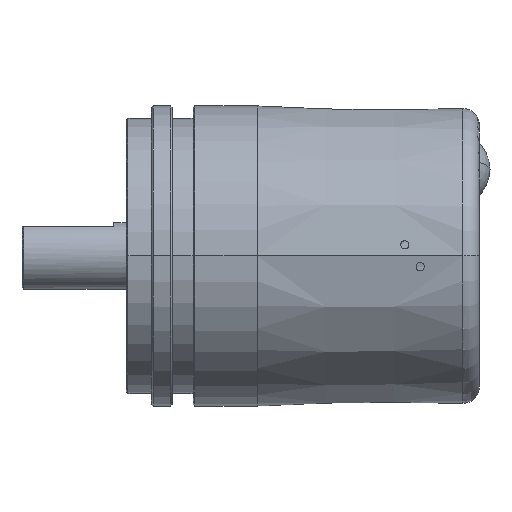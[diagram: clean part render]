
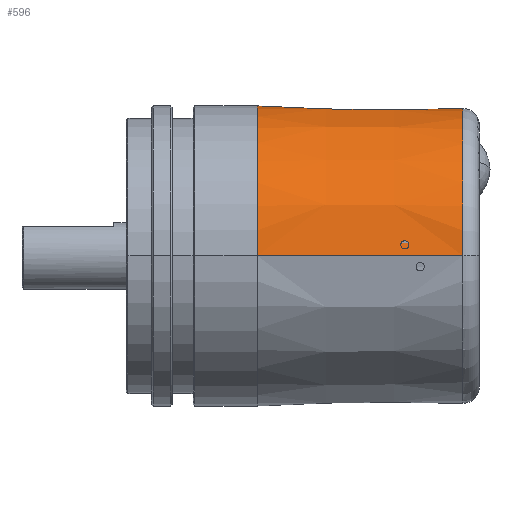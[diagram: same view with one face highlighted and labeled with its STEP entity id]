
A CAD part, top view. The second image highlights one B-rep face of the part: STEP entity #596.
In plain terms, the highlighted conical face has half-angle 0.75 degrees and reference radius 18 mm.
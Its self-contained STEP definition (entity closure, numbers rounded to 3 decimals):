
#129 = VERTEX_POINT ( 'NONE', #21431 ) ;
#505 = VERTEX_POINT ( 'NONE', #2019 ) ;
#507 = EDGE_CURVE ( 'NONE', #505, #514, #2053, .T. ) ;
#514 = VERTEX_POINT ( 'NONE', #2030 ) ;
#593 = EDGE_CURVE ( 'NONE', #594, #600, #2279, .T. ) ;
#594 = VERTEX_POINT ( 'NONE', #2274 ) ;
#596 = ADVANCED_FACE ( 'NONE', ( #2270 ), #2307, .T. ) ;
#598 = ORIENTED_EDGE ( 'NONE', *, *, #599, .T. ) ;
#599 = EDGE_CURVE ( 'NONE', #594, #505, #2302, .T. ) ;
#600 = VERTEX_POINT ( 'NONE', #2298 ) ;
#604 = EDGE_LOOP ( 'NONE', ( #605, #598, #633, #634, #625, #626, #621, #631, #640, #651, #652 ) ) ;
#605 = ORIENTED_EDGE ( 'NONE', *, *, #593, .F. ) ;
#621 = ORIENTED_EDGE ( 'NONE', *, *, #635, .F. ) ;
#625 = ORIENTED_EDGE ( 'NONE', *, *, #630, .T. ) ;
#626 = ORIENTED_EDGE ( 'NONE', *, *, #637, .T. ) ;
#627 = VERTEX_POINT ( 'NONE', #2376 ) ;
#629 = VERTEX_POINT ( 'NONE', #2370 ) ;
#630 = EDGE_CURVE ( 'NONE', #629, #627, #2369, .T. ) ;
#631 = ORIENTED_EDGE ( 'NONE', *, *, #19432, .T. ) ;
#632 = EDGE_CURVE ( 'NONE', #514, #629, #2412, .T. ) ;
#633 = ORIENTED_EDGE ( 'NONE', *, *, #507, .T. ) ;
#634 = ORIENTED_EDGE ( 'NONE', *, *, #632, .T. ) ;
#635 = EDGE_CURVE ( 'NONE', #129, #641, #2406, .T. ) ;
#637 = EDGE_CURVE ( 'NONE', #627, #641, #2436, .T. ) ;
#640 = ORIENTED_EDGE ( 'NONE', *, *, #646, .T. ) ;
#641 = VERTEX_POINT ( 'NONE', #2421 ) ;
#642 = VERTEX_POINT ( 'NONE', #2420 ) ;
#646 = EDGE_CURVE ( 'NONE', #19481, #642, #2466, .T. ) ;
#650 = EDGE_CURVE ( 'NONE', #657, #600, #2493, .T. ) ;
#651 = ORIENTED_EDGE ( 'NONE', *, *, #655, .F. ) ;
#652 = ORIENTED_EDGE ( 'NONE', *, *, #650, .T. ) ;
#655 = EDGE_CURVE ( 'NONE', #657, #642, #2480, .T. ) ;
#657 = VERTEX_POINT ( 'NONE', #2474 ) ;
#2019 = CARTESIAN_POINT ( 'NONE',  ( 17.85, 0., -17.972 ) ) ;
#2030 = CARTESIAN_POINT ( 'NONE',  ( 16.892, 1.046, -17.954 ) ) ;
#2039 = CARTESIAN_POINT ( 'NONE',  ( 16.892, 1.046, -17.954 ) ) ;
#2040 = CARTESIAN_POINT ( 'NONE',  ( 17.022, 1.035, -17.953 ) ) ;
#2041 = CARTESIAN_POINT ( 'NONE',  ( 17.149, 0.999, -17.953 ) ) ;
#2042 = CARTESIAN_POINT ( 'NONE',  ( 17.381, 0.884, -17.956 ) ) ;
#2043 = CARTESIAN_POINT ( 'NONE',  ( 17.487, 0.804, -17.959 ) ) ;
#2044 = CARTESIAN_POINT ( 'NONE',  ( 17.662, 0.614, -17.964 ) ) ;
#2045 = CARTESIAN_POINT ( 'NONE',  ( 17.732, 0.501, -17.967 ) ) ;
#2046 = CARTESIAN_POINT ( 'NONE',  ( 17.825, 0.26, -17.971 ) ) ;
#2047 = CARTESIAN_POINT ( 'NONE',  ( 17.85, 0.129, -17.972 ) ) ;
#2048 = CARTESIAN_POINT ( 'NONE',  ( 17.85, 0., -17.972 ) ) ;
#2053 = B_SPLINE_CURVE_WITH_KNOTS ( 'NONE', 3,
 ( #2048, #2047, #2046, #2045, #2044, #2043, #2042, #2041, #2040, #2039 ),
 .UNSPECIFIED., .F., .F.,
 ( 4, 2, 2, 2, 4 ),
 ( 0.002, 0.002, 0.002, 0.003, 0.003 ),
 .UNSPECIFIED. ) ;
#2270 = FACE_OUTER_BOUND ( 'NONE', #604, .T. ) ;
#2274 = CARTESIAN_POINT ( 'NONE',  ( 26.3, 0., -17.861 ) ) ;
#2275 = DIRECTION ( 'NONE',  ( 0., 0., 1. ) ) ;
#2276 = DIRECTION ( 'NONE',  ( 1., 0., 0. ) ) ;
#2277 = CARTESIAN_POINT ( 'NONE',  ( 26.3, 0., 0. ) ) ;
#2278 = AXIS2_PLACEMENT_3D ( 'NONE', #2277, #2276, #2275 ) ;
#2279 = CIRCLE ( 'NONE', #2278, 17.861 ) ;
#2298 = CARTESIAN_POINT ( 'NONE',  ( 26.3, 6.771, -16.528 ) ) ;
#2299 = DIRECTION ( 'NONE',  ( -1., 0., -0.013 ) ) ;
#2300 = VECTOR ( 'NONE', #2299, 1000. ) ;
#2301 = CARTESIAN_POINT ( 'NONE',  ( 15.7, 0., -18. ) ) ;
#2302 = LINE ( 'NONE', #2301, #2300 ) ;
#2304 = DIRECTION ( 'NONE',  ( 0., 0., 1. ) ) ;
#2305 = DIRECTION ( 'NONE',  ( -1., 0., 0. ) ) ;
#2306 = AXIS2_PLACEMENT_3D ( 'NONE', #2309, #2305, #2304 ) ;
#2307 = CONICAL_SURFACE ( 'NONE', #2306, 18., 0.013 ) ;
#2309 = CARTESIAN_POINT ( 'NONE',  ( 15.7, 0., 0. ) ) ;
#2367 = CARTESIAN_POINT ( 'NONE',  ( 16.065, 1.285, -17.95 ) ) ;
#2368 = CARTESIAN_POINT ( 'NONE',  ( 16.248, 1.102, -17.959 ) ) ;
#2369 =( BOUNDED_CURVE ( )  B_SPLINE_CURVE ( 3, ( #2368, #2367, #2414, #2413 ),
 .UNSPECIFIED., .F., .T. ) 
 B_SPLINE_CURVE_WITH_KNOTS ( ( 4, 4 ),
 ( 4.761, 4.791 ),
 .UNSPECIFIED. ) 
 CURVE ( )  GEOMETRIC_REPRESENTATION_ITEM ( )  RATIONAL_B_SPLINE_CURVE ( ( 1., 1., 1., 1. ) ) 
 REPRESENTATION_ITEM ( '' )  );
#2370 = CARTESIAN_POINT ( 'NONE',  ( 16.248, 1.102, -17.959 ) ) ;
#2376 = CARTESIAN_POINT ( 'NONE',  ( 15.7, 1.65, -17.924 ) ) ;
#2403 = DIRECTION ( 'NONE',  ( -1., 0., 0.013 ) ) ;
#2404 = VECTOR ( 'NONE', #2403, 1000. ) ;
#2405 = CARTESIAN_POINT ( 'NONE',  ( 15.7, 0., 18. ) ) ;
#2406 = LINE ( 'NONE', #2405, #2404 ) ;
#2408 = CARTESIAN_POINT ( 'NONE',  ( 16.248, 1.102, -17.959 ) ) ;
#2409 = CARTESIAN_POINT ( 'NONE',  ( 16.462, 1.084, -17.957 ) ) ;
#2410 = CARTESIAN_POINT ( 'NONE',  ( 16.677, 1.065, -17.956 ) ) ;
#2411 = CARTESIAN_POINT ( 'NONE',  ( 16.892, 1.046, -17.954 ) ) ;
#2412 =( BOUNDED_CURVE ( )  B_SPLINE_CURVE ( 3, ( #2411, #2410, #2409, #2408 ),
 .UNSPECIFIED., .F., .T. ) 
 B_SPLINE_CURVE_WITH_KNOTS ( ( 4, 4 ),
 ( 4.62, 4.623 ),
 .UNSPECIFIED. ) 
 CURVE ( )  GEOMETRIC_REPRESENTATION_ITEM ( )  RATIONAL_B_SPLINE_CURVE ( ( 1., 1., 1., 1. ) ) 
 REPRESENTATION_ITEM ( '' )  );
#2413 = CARTESIAN_POINT ( 'NONE',  ( 15.7, 1.65, -17.924 ) ) ;
#2414 = CARTESIAN_POINT ( 'NONE',  ( 15.882, 1.468, -17.939 ) ) ;
#2420 = CARTESIAN_POINT ( 'NONE',  ( 40.3, 9.486, -14.917 ) ) ;
#2421 = CARTESIAN_POINT ( 'NONE',  ( 15.7, 0., 18. ) ) ;
#2427 = DIRECTION ( 'NONE',  ( 0., 0., -1. ) ) ;
#2429 = DIRECTION ( 'NONE',  ( 1., 0., 0. ) ) ;
#2430 = CARTESIAN_POINT ( 'NONE',  ( 15.7, 0., 0. ) ) ;
#2431 = AXIS2_PLACEMENT_3D ( 'NONE', #2430, #2429, #2427 ) ;
#2436 = CIRCLE ( 'NONE', #2431, 18. ) ;
#2460 = CARTESIAN_POINT ( 'NONE',  ( 40.3, 9.486, -14.917 ) ) ;
#2461 = CARTESIAN_POINT ( 'NONE',  ( 40.309, 9.486, -14.917 ) ) ;
#2462 = CARTESIAN_POINT ( 'NONE',  ( 40.317, 9.486, -14.917 ) ) ;
#2463 = CARTESIAN_POINT ( 'NONE',  ( 40.326, 9.486, -14.917 ) ) ;
#2466 = B_SPLINE_CURVE_WITH_KNOTS ( 'NONE', 3,
 ( #2463, #2462, #2461, #2460 ),
 .UNSPECIFIED., .F., .F.,
 ( 4, 4 ),
 ( 0.004, 0.004 ),
 .UNSPECIFIED. ) ;
#2474 = CARTESIAN_POINT ( 'NONE',  ( 28.3, 9.398, -15.158 ) ) ;
#2475 = CARTESIAN_POINT ( 'NONE',  ( 40.3, 9.486, -14.917 ) ) ;
#2476 = CARTESIAN_POINT ( 'NONE',  ( 36.3, 9.457, -14.998 ) ) ;
#2477 = CARTESIAN_POINT ( 'NONE',  ( 32.3, 9.427, -15.078 ) ) ;
#2478 = CARTESIAN_POINT ( 'NONE',  ( 28.3, 9.398, -15.158 ) ) ;
#2480 = B_SPLINE_CURVE_WITH_KNOTS ( 'NONE', 3,
 ( #2478, #2477, #2476, #2475 ),
 .UNSPECIFIED., .F., .F.,
 ( 4, 4 ),
 ( 0.002, 0.014 ),
 .UNSPECIFIED. ) ;
#2481 = CARTESIAN_POINT ( 'NONE',  ( 26.3, 6.771, -16.528 ) ) ;
#2482 = CARTESIAN_POINT ( 'NONE',  ( 26.3, 7.074, -16.404 ) ) ;
#2483 = CARTESIAN_POINT ( 'NONE',  ( 26.343, 7.37, -16.272 ) ) ;
#2484 = CARTESIAN_POINT ( 'NONE',  ( 26.507, 7.94, -16. ) ) ;
#2485 = CARTESIAN_POINT ( 'NONE',  ( 26.625, 8.207, -15.862 ) ) ;
#2486 = CARTESIAN_POINT ( 'NONE',  ( 26.948, 8.703, -15.59 ) ) ;
#2487 = CARTESIAN_POINT ( 'NONE',  ( 27.15, 8.928, -15.458 ) ) ;
#2488 = CARTESIAN_POINT ( 'NONE',  ( 27.533, 9.191, -15.296 ) ) ;
#2489 = CARTESIAN_POINT ( 'NONE',  ( 27.672, 9.264, -15.25 ) ) ;
#2490 = CARTESIAN_POINT ( 'NONE',  ( 27.977, 9.368, -15.181 ) ) ;
#2491 = CARTESIAN_POINT ( 'NONE',  ( 28.135, 9.397, -15.161 ) ) ;
#2492 = CARTESIAN_POINT ( 'NONE',  ( 28.3, 9.398, -15.158 ) ) ;
#2493 = B_SPLINE_CURVE_WITH_KNOTS ( 'NONE', 3,
 ( #2492, #2491, #2490, #2489, #2488, #2487, #2486, #2485, #2484, #2483, #2482, #2481 ),
 .UNSPECIFIED., .F., .F.,
 ( 4, 2, 2, 2, 2, 4 ),
 ( 0., 0., 0.001, 0.002, 0.003, 0.004 ),
 .UNSPECIFIED. ) ;
#11874 = DIRECTION ( 'NONE',  ( 0., 0., -1. ) ) ;
#11875 = DIRECTION ( 'NONE',  ( -1., 0., 0. ) ) ;
#11876 = CARTESIAN_POINT ( 'NONE',  ( 40.326, 0., 0. ) ) ;
#11877 = AXIS2_PLACEMENT_3D ( 'NONE', #11876, #11875, #11874 ) ;
#11878 = CIRCLE ( 'NONE', #11877, 17.678 ) ;
#12081 = CARTESIAN_POINT ( 'NONE',  ( 40.326, 9.486, -14.917 ) ) ;
#19432 = EDGE_CURVE ( 'NONE', #129, #19481, #11878, .T. ) ;
#19481 = VERTEX_POINT ( 'NONE', #12081 ) ;
#21431 = CARTESIAN_POINT ( 'NONE',  ( 40.326, 0., 17.678 ) ) ;
